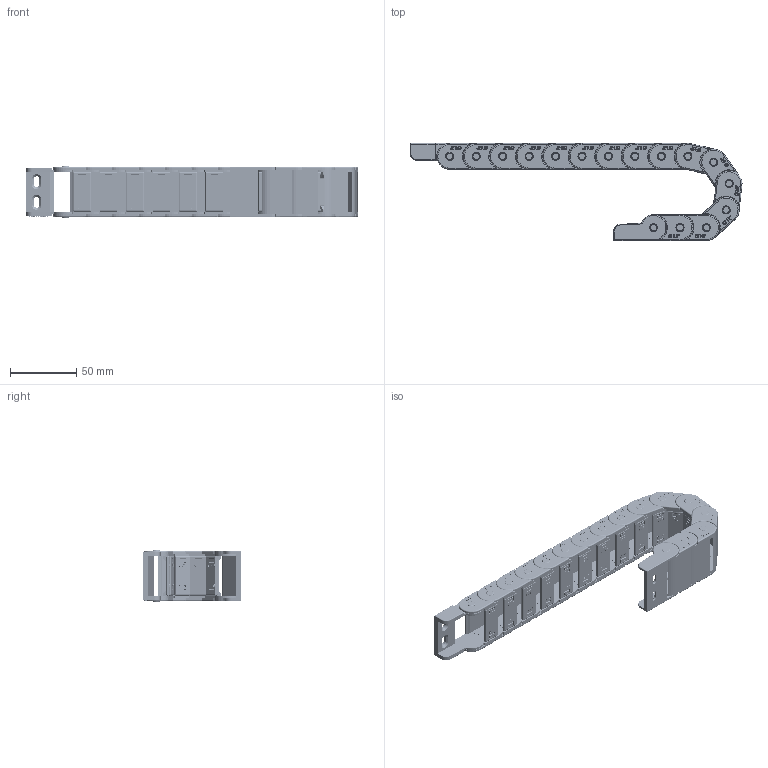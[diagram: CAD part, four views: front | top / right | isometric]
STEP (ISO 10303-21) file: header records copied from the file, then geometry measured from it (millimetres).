
FILE_DESCRIPTION (( 'STEP AP203' ), '1' );
FILE_NAME ('5F-J15BF.1.30N-3D郪璃芞.STEP', '2017-08-22T01:07:02', ( 'china' ), ( 'china' ), 'SwSTEP 2.0', 'SolidWorks 2016', '' );
FILE_SCHEMA (( 'CONFIG_CONTROL_DESIGN' ));
Length unit declared in the file: millimetre
Products named in the file (6): FW15X30-XJT-N3D; FW15X30-XJT-W3D; 5F-J15BF.1.30N-3D郪璃芞; FW-15BF-1-30N-ZT3D; FW15X30-DP3D; FW5-15BFX30-1
Assembly tree (19 placements, depth 3):
  5F-J15BF.1.30N-3D郪璃芞
    FW5-15BFX30-1  x15
      FW-15BF-1-30N-ZT3D
      FW15X30-DP3D
    FW15X30-XJT-N3D
    FW15X30-XJT-W3D
Bounding box: 250.9 x 73.36 x 39 mm (x, y, z)
Volume: 84652.5 mm3; surface area: 96748.5 mm2
Topology: 32 solids, 32 shells, 7628 faces, 20261 edges, 13316 vertices
Faces by surface type: plane 3650, bspline 2675, cylinder 969, torus 318, cone 12, sphere 4
Entity records: 42803 total; most frequent: CARTESIAN_POINT 20407, ORIENTED_EDGE 4922, DIRECTION 3483, EDGE_CURVE 2461, VERTEX_POINT 1610, VECTOR 1567, LINE 1567, EDGE_LOOP 1033
